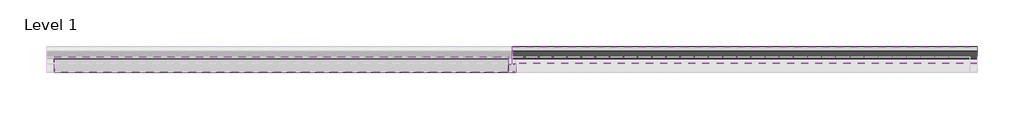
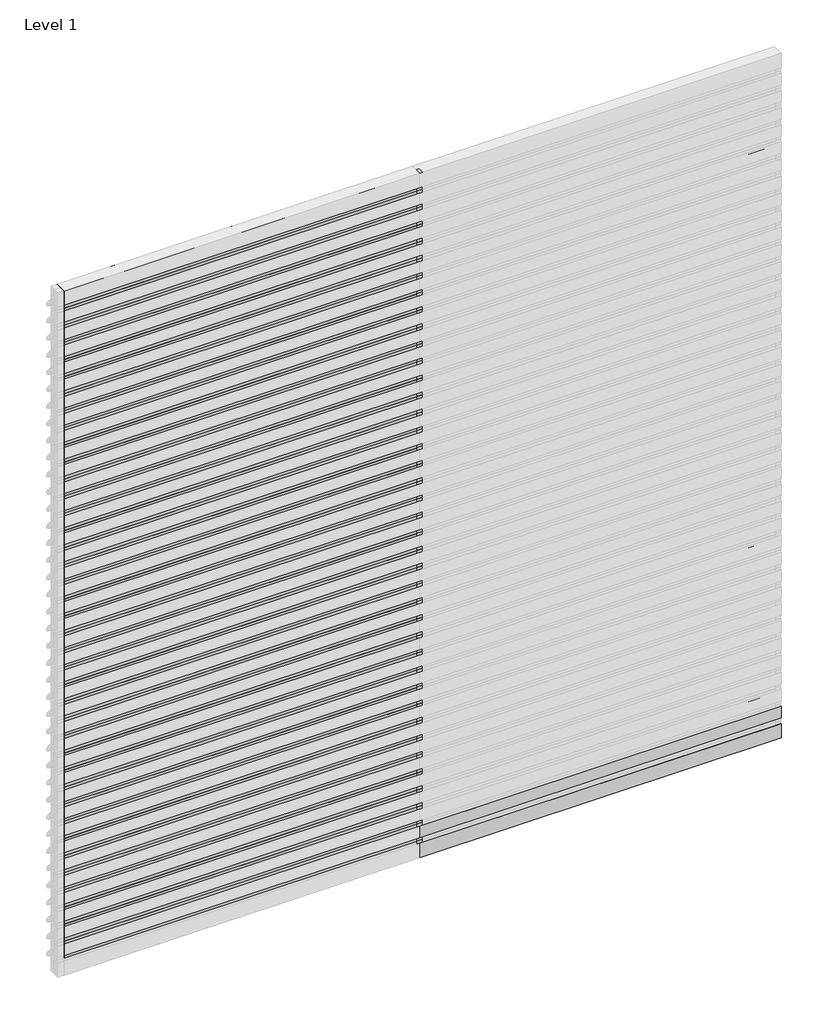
# One storey, part 2 of 3: 79 members, 41 plates.
"""IFC4 building model written with IfcOpenShell, lengths in millimetres."""

from ifc_helpers import new_model, si_unit, origin, place, context, project, spatial, transform, mapped, element, save
from components import rectangular_mullion_37c1fa86, rectangular_mullion_eb4a5411, empty_system_panel_empty_4bef3949, empty_system_panel_empty_2cee0f2e, empty_system_panel_empty_149e9d60

model = new_model("IFC4")

# Units and contexts
model_context = context("Model", 3, world=origin())
ifc_project = project(units=[si_unit("LENGTHUNIT", "METRE", prefix="MILLI")], contexts=[model_context])

# Site, building, storey
site = spatial("IfcSite", under=ifc_project)
building = spatial("IfcBuilding", under=site)
storey = spatial("IfcBuildingStorey", under=building, Name="Level 1", Elevation=0.0)

# Members
placement = place(None, origin())
rectangular_mullion_shape = rectangular_mullion_37c1fa86(model_context)
element("IfcMember", 1, ObjectType="Rectangular Mullion : RSen_21_CWM_blade - 150 ellips - 45°_gen_duco projects", at=placement, inside=storey, context=model_context, shape_type="MappedRepresentation", body=[
    mapped(rectangular_mullion_shape, transform((3000.0, 3000.0, 150.0), x_axis=(0.0, 0.0, 1.0), y_axis=(0.0, 1.0, 0.0), z_axis=(-1.0, 0.0, 0.0))),
])
element("IfcMember", 2, ObjectType="Rectangular Mullion : RSen_21_CWM_blade - 150 ellips - 45°_gen_duco projects", at=placement, inside=storey, context=model_context, shape_type="MappedRepresentation", body=[
    mapped(rectangular_mullion_shape, transform((3000.0, 3000.0, 300.0), x_axis=(0.0, 0.0, 1.0), y_axis=(0.0, 1.0, 0.0), z_axis=(-1.0, 0.0, 0.0))),
])
element("IfcMember", 3, ObjectType="Rectangular Mullion : RSen_21_CWM_blade - 150 ellips - 45°_gen_duco projects", at=placement, inside=storey, context=model_context, shape_type="MappedRepresentation", body=[
    mapped(rectangular_mullion_shape, transform((3000.0, 3000.0, 450.0), x_axis=(0.0, 0.0, 1.0), y_axis=(0.0, 1.0, 0.0), z_axis=(-1.0, 0.0, 0.0))),
])
element("IfcMember", 4, ObjectType="Rectangular Mullion : RSen_21_CWM_blade - 150 ellips - 45°_gen_duco projects", at=placement, inside=storey, context=model_context, shape_type="MappedRepresentation", body=[
    mapped(rectangular_mullion_shape, transform((3000.0, 3000.0, 600.0), x_axis=(0.0, 0.0, 1.0), y_axis=(0.0, 1.0, 0.0), z_axis=(-1.0, 0.0, 0.0))),
])
element("IfcMember", 5, ObjectType="Rectangular Mullion : RSen_21_CWM_blade - 150 ellips - 45°_gen_duco projects", at=placement, inside=storey, context=model_context, shape_type="MappedRepresentation", body=[
    mapped(rectangular_mullion_shape, transform((3000.0, 3000.0, 750.0), x_axis=(0.0, 0.0, 1.0), y_axis=(0.0, 1.0, 0.0), z_axis=(-1.0, 0.0, 0.0))),
])
element("IfcMember", 6, ObjectType="Rectangular Mullion : RSen_21_CWM_blade - 150 ellips - 45°_gen_duco projects", at=placement, inside=storey, context=model_context, shape_type="MappedRepresentation", body=[
    mapped(rectangular_mullion_shape, transform((3000.0, 3000.0, 900.0), x_axis=(0.0, 0.0, 1.0), y_axis=(0.0, 1.0, 0.0), z_axis=(-1.0, 0.0, 0.0))),
])
element("IfcMember", 7, ObjectType="Rectangular Mullion : RSen_21_CWM_blade - 150 ellips - 45°_gen_duco projects", at=placement, inside=storey, context=model_context, shape_type="MappedRepresentation", body=[
    mapped(rectangular_mullion_shape, transform((3000.0, 3000.0, 1050.0), x_axis=(0.0, 0.0, 1.0), y_axis=(0.0, 1.0, 0.0), z_axis=(-1.0, 0.0, 0.0))),
])
element("IfcMember", 8, ObjectType="Rectangular Mullion : RSen_21_CWM_blade - 150 ellips - 45°_gen_duco projects", at=placement, inside=storey, context=model_context, shape_type="MappedRepresentation", body=[
    mapped(rectangular_mullion_shape, transform((3000.0, 3000.0, 1200.0), x_axis=(0.0, 0.0, 1.0), y_axis=(0.0, 1.0, 0.0), z_axis=(-1.0, 0.0, 0.0))),
])
element("IfcMember", 9, ObjectType="Rectangular Mullion : RSen_21_CWM_blade - 150 ellips - 45°_gen_duco projects", at=placement, inside=storey, context=model_context, shape_type="MappedRepresentation", body=[
    mapped(rectangular_mullion_shape, transform((3000.0, 3000.0, 1350.0), x_axis=(0.0, 0.0, 1.0), y_axis=(0.0, 1.0, 0.0), z_axis=(-1.0, 0.0, 0.0))),
])
element("IfcMember", 10, ObjectType="Rectangular Mullion : RSen_21_CWM_blade - 150 ellips - 45°_gen_duco projects", at=placement, inside=storey, context=model_context, shape_type="MappedRepresentation", body=[
    mapped(rectangular_mullion_shape, transform((3000.0, 3000.0, 1500.0), x_axis=(0.0, 0.0, 1.0), y_axis=(0.0, 1.0, 0.0), z_axis=(-1.0, 0.0, 0.0))),
])
element("IfcMember", 11, ObjectType="Rectangular Mullion : RSen_21_CWM_blade - 150 ellips - 45°_gen_duco projects", at=placement, inside=storey, context=model_context, shape_type="MappedRepresentation", body=[
    mapped(rectangular_mullion_shape, transform((3000.0, 3000.0, 1650.0), x_axis=(0.0, 0.0, 1.0), y_axis=(0.0, 1.0, 0.0), z_axis=(-1.0, 0.0, 0.0))),
])
element("IfcMember", 12, ObjectType="Rectangular Mullion : RSen_21_CWM_blade - 150 ellips - 45°_gen_duco projects", at=placement, inside=storey, context=model_context, shape_type="MappedRepresentation", body=[
    mapped(rectangular_mullion_shape, transform((3000.0, 3000.0, 1800.0), x_axis=(0.0, 0.0, 1.0), y_axis=(0.0, 1.0, 0.0), z_axis=(-1.0, 0.0, 0.0))),
])
element("IfcMember", 13, ObjectType="Rectangular Mullion : RSen_21_CWM_blade - 150 ellips - 45°_gen_duco projects", at=placement, inside=storey, context=model_context, shape_type="MappedRepresentation", body=[
    mapped(rectangular_mullion_shape, transform((3000.0, 3000.0, 1950.0), x_axis=(0.0, 0.0, 1.0), y_axis=(0.0, 1.0, 0.0), z_axis=(-1.0, 0.0, 0.0))),
])
element("IfcMember", 14, ObjectType="Rectangular Mullion : RSen_21_CWM_blade - 150 ellips - 45°_gen_duco projects", at=placement, inside=storey, context=model_context, shape_type="MappedRepresentation", body=[
    mapped(rectangular_mullion_shape, transform((3000.0, 3000.0, 2100.0), x_axis=(0.0, 0.0, 1.0), y_axis=(0.0, 1.0, 0.0), z_axis=(-1.0, 0.0, 0.0))),
])
element("IfcMember", 15, ObjectType="Rectangular Mullion : RSen_21_CWM_blade - 150 ellips - 45°_gen_duco projects", at=placement, inside=storey, context=model_context, shape_type="MappedRepresentation", body=[
    mapped(rectangular_mullion_shape, transform((3000.0, 3000.0, 2250.0), x_axis=(0.0, 0.0, 1.0), y_axis=(0.0, 1.0, 0.0), z_axis=(-1.0, 0.0, 0.0))),
])
element("IfcMember", 16, ObjectType="Rectangular Mullion : RSen_21_CWM_blade - 150 ellips - 45°_gen_duco projects", at=placement, inside=storey, context=model_context, shape_type="MappedRepresentation", body=[
    mapped(rectangular_mullion_shape, transform((3000.0, 3000.0, 2400.0), x_axis=(0.0, 0.0, 1.0), y_axis=(0.0, 1.0, 0.0), z_axis=(-1.0, 0.0, 0.0))),
])
element("IfcMember", 17, ObjectType="Rectangular Mullion : RSen_21_CWM_blade - 150 ellips - 45°_gen_duco projects", at=placement, inside=storey, context=model_context, shape_type="MappedRepresentation", body=[
    mapped(rectangular_mullion_shape, transform((3000.0, 3000.0, 2550.0), x_axis=(0.0, 0.0, 1.0), y_axis=(0.0, 1.0, 0.0), z_axis=(-1.0, 0.0, 0.0))),
])
element("IfcMember", 18, ObjectType="Rectangular Mullion : RSen_21_CWM_blade - 150 ellips - 45°_gen_duco projects", at=placement, inside=storey, context=model_context, shape_type="MappedRepresentation", body=[
    mapped(rectangular_mullion_shape, transform((3000.0, 3000.0, 2700.0), x_axis=(0.0, 0.0, 1.0), y_axis=(0.0, 1.0, 0.0), z_axis=(-1.0, 0.0, 0.0))),
])
element("IfcMember", 19, ObjectType="Rectangular Mullion : RSen_21_CWM_blade - 150 ellips - 45°_gen_duco projects", at=placement, inside=storey, context=model_context, shape_type="MappedRepresentation", body=[
    mapped(rectangular_mullion_shape, transform((3000.0, 3000.0, 2850.0), x_axis=(0.0, 0.0, 1.0), y_axis=(0.0, 1.0, 0.0), z_axis=(-1.0, 0.0, 0.0))),
])
element("IfcMember", 20, ObjectType="Rectangular Mullion : RSen_21_CWM_blade - 150 ellips - 45°_gen_duco projects", at=placement, inside=storey, context=model_context, shape_type="MappedRepresentation", body=[
    mapped(rectangular_mullion_shape, transform((3000.0, 3000.0, 3000.0), x_axis=(0.0, 0.0, 1.0), y_axis=(0.0, 1.0, 0.0), z_axis=(-1.0, 0.0, 0.0))),
])
element("IfcMember", 21, ObjectType="Rectangular Mullion : RSen_21_CWM_blade - 150 ellips - 45°_gen_duco projects", at=placement, inside=storey, context=model_context, shape_type="MappedRepresentation", body=[
    mapped(rectangular_mullion_shape, transform((3000.0, 3000.0, 3150.0), x_axis=(0.0, 0.0, 1.0), y_axis=(0.0, 1.0, 0.0), z_axis=(-1.0, 0.0, 0.0))),
])
element("IfcMember", 22, ObjectType="Rectangular Mullion : RSen_21_CWM_blade - 150 ellips - 45°_gen_duco projects", at=placement, inside=storey, context=model_context, shape_type="MappedRepresentation", body=[
    mapped(rectangular_mullion_shape, transform((3000.0, 3000.0, 3300.0), x_axis=(0.0, 0.0, 1.0), y_axis=(0.0, 1.0, 0.0), z_axis=(-1.0, 0.0, 0.0))),
])
element("IfcMember", 23, ObjectType="Rectangular Mullion : RSen_21_CWM_blade - 150 ellips - 45°_gen_duco projects", at=placement, inside=storey, context=model_context, shape_type="MappedRepresentation", body=[
    mapped(rectangular_mullion_shape, transform((3000.0, 3000.0, 3450.0), x_axis=(0.0, 0.0, 1.0), y_axis=(0.0, 1.0, 0.0), z_axis=(-1.0, 0.0, 0.0))),
])
element("IfcMember", 24, ObjectType="Rectangular Mullion : RSen_21_CWM_blade - 150 ellips - 45°_gen_duco projects", at=placement, inside=storey, context=model_context, shape_type="MappedRepresentation", body=[
    mapped(rectangular_mullion_shape, transform((3000.0, 3000.0, 3600.0), x_axis=(0.0, 0.0, 1.0), y_axis=(0.0, 1.0, 0.0), z_axis=(-1.0, 0.0, 0.0))),
])
element("IfcMember", 25, ObjectType="Rectangular Mullion : RSen_21_CWM_blade - 150 ellips - 45°_gen_duco projects", at=placement, inside=storey, context=model_context, shape_type="MappedRepresentation", body=[
    mapped(rectangular_mullion_shape, transform((3000.0, 3000.0, 3750.0), x_axis=(0.0, 0.0, 1.0), y_axis=(0.0, 1.0, 0.0), z_axis=(-1.0, 0.0, 0.0))),
])
element("IfcMember", 26, ObjectType="Rectangular Mullion : RSen_21_CWM_blade - 150 ellips - 45°_gen_duco projects", at=placement, inside=storey, context=model_context, shape_type="MappedRepresentation", body=[
    mapped(rectangular_mullion_shape, transform((3000.0, 3000.0, 3900.0), x_axis=(0.0, 0.0, 1.0), y_axis=(0.0, 1.0, 0.0), z_axis=(-1.0, 0.0, 0.0))),
])
element("IfcMember", 27, ObjectType="Rectangular Mullion : RSen_21_CWM_blade - 150 ellips - 45°_gen_duco projects", at=placement, inside=storey, context=model_context, shape_type="MappedRepresentation", body=[
    mapped(rectangular_mullion_shape, transform((3000.0, 3000.0, 4050.0), x_axis=(0.0, 0.0, 1.0), y_axis=(0.0, 1.0, 0.0), z_axis=(-1.0, 0.0, 0.0))),
])
element("IfcMember", 28, ObjectType="Rectangular Mullion : RSen_21_CWM_blade - 150 ellips - 45°_gen_duco projects", at=placement, inside=storey, context=model_context, shape_type="MappedRepresentation", body=[
    mapped(rectangular_mullion_shape, transform((3000.0, 3000.0, 4200.0), x_axis=(0.0, 0.0, 1.0), y_axis=(0.0, 1.0, 0.0), z_axis=(-1.0, 0.0, 0.0))),
])
element("IfcMember", 29, ObjectType="Rectangular Mullion : RSen_21_CWM_blade - 150 ellips - 45°_gen_duco projects", at=placement, inside=storey, context=model_context, shape_type="MappedRepresentation", body=[
    mapped(rectangular_mullion_shape, transform((3000.0, 3000.0, 4350.0), x_axis=(0.0, 0.0, 1.0), y_axis=(0.0, 1.0, 0.0), z_axis=(-1.0, 0.0, 0.0))),
])
element("IfcMember", 30, ObjectType="Rectangular Mullion : RSen_21_CWM_blade - 150 ellips - 45°_gen_duco projects", at=placement, inside=storey, context=model_context, shape_type="MappedRepresentation", body=[
    mapped(rectangular_mullion_shape, transform((3000.0, 3000.0, 4500.0), x_axis=(0.0, 0.0, 1.0), y_axis=(0.0, 1.0, 0.0), z_axis=(-1.0, 0.0, 0.0))),
])
element("IfcMember", 31, ObjectType="Rectangular Mullion : RSen_21_CWM_blade - 150 ellips - 45°_gen_duco projects", at=placement, inside=storey, context=model_context, shape_type="MappedRepresentation", body=[
    mapped(rectangular_mullion_shape, transform((3000.0, 3000.0, 4650.0), x_axis=(0.0, 0.0, 1.0), y_axis=(0.0, 1.0, 0.0), z_axis=(-1.0, 0.0, 0.0))),
])
element("IfcMember", 32, ObjectType="Rectangular Mullion : RSen_21_CWM_blade - 150 ellips - 45°_gen_duco projects", at=placement, inside=storey, context=model_context, shape_type="MappedRepresentation", body=[
    mapped(rectangular_mullion_shape, transform((3000.0, 3000.0, 4800.0), x_axis=(0.0, 0.0, 1.0), y_axis=(0.0, 1.0, 0.0), z_axis=(-1.0, 0.0, 0.0))),
])
element("IfcMember", 33, ObjectType="Rectangular Mullion : RSen_21_CWM_blade - 150 ellips - 45°_gen_duco projects", at=placement, inside=storey, context=model_context, shape_type="MappedRepresentation", body=[
    mapped(rectangular_mullion_shape, transform((3000.0, 3000.0, 4950.0), x_axis=(0.0, 0.0, 1.0), y_axis=(0.0, 1.0, 0.0), z_axis=(-1.0, 0.0, 0.0))),
])
element("IfcMember", 34, ObjectType="Rectangular Mullion : RSen_21_CWM_blade - 150 ellips - 45°_gen_duco projects", at=placement, inside=storey, context=model_context, shape_type="MappedRepresentation", body=[
    mapped(rectangular_mullion_shape, transform((3000.0, 3000.0, 5100.0), x_axis=(0.0, 0.0, 1.0), y_axis=(0.0, 1.0, 0.0), z_axis=(-1.0, 0.0, 0.0))),
])
element("IfcMember", 35, ObjectType="Rectangular Mullion : RSen_21_CWM_blade - 150 ellips - 45°_gen_duco projects", at=placement, inside=storey, context=model_context, shape_type="MappedRepresentation", body=[
    mapped(rectangular_mullion_shape, transform((3000.0, 3000.0, 5250.0), x_axis=(0.0, 0.0, 1.0), y_axis=(0.0, 1.0, 0.0), z_axis=(-1.0, 0.0, 0.0))),
])
element("IfcMember", 36, ObjectType="Rectangular Mullion : RSen_21_CWM_blade - 150 ellips - 45°_gen_duco projects", at=placement, inside=storey, context=model_context, shape_type="MappedRepresentation", body=[
    mapped(rectangular_mullion_shape, transform((3000.0, 3000.0, 5400.0), x_axis=(0.0, 0.0, 1.0), y_axis=(0.0, 1.0, 0.0), z_axis=(-1.0, 0.0, 0.0))),
])
element("IfcMember", 37, ObjectType="Rectangular Mullion : RSen_21_CWM_blade - 150 ellips - 45°_gen_duco projects", at=placement, inside=storey, context=model_context, shape_type="MappedRepresentation", body=[
    mapped(rectangular_mullion_shape, transform((3000.0, 3000.0, 5550.0), x_axis=(0.0, 0.0, 1.0), y_axis=(0.0, 1.0, 0.0), z_axis=(-1.0, 0.0, 0.0))),
])
element("IfcMember", 38, ObjectType="Rectangular Mullion : RSen_21_CWM_blade - 150 ellips - 45°_gen_duco projects", at=placement, inside=storey, context=model_context, shape_type="MappedRepresentation", body=[
    mapped(rectangular_mullion_shape, transform((3000.0, 3000.0, 5700.0), x_axis=(0.0, 0.0, 1.0), y_axis=(0.0, 1.0, 0.0), z_axis=(-1.0, 0.0, 0.0))),
])
element("IfcMember", 39, ObjectType="Rectangular Mullion : RSen_21_CWM_blade - 150 ellips - 45°_gen_duco projects", at=placement, inside=storey, context=model_context, shape_type="MappedRepresentation", body=[
    mapped(rectangular_mullion_shape, transform((3000.0, 3000.0, 5850.0), x_axis=(0.0, 0.0, 1.0), y_axis=(0.0, 1.0, 0.0), z_axis=(-1.0, 0.0, 0.0))),
])
rectangular_mullion_2_shape = rectangular_mullion_eb4a5411(model_context)
element("IfcMember", 40, ObjectType="Rectangular Mullion : RSen_21_CWM_support profile 50x50_gen_duco projects", at=placement, inside=storey, context=model_context, shape_type="MappedRepresentation", body=[
    mapped(rectangular_mullion_2_shape, transform((3000.0, 3000.0, 0.0), x_axis=(-1.0, 0.0, 0.0), y_axis=(0.0, 1.0, 0.0), z_axis=(0.0, 0.0, -1.0))),
])
element("IfcMember", 41, ObjectType="Rectangular Mullion : RSen_21_CWM_support profile 50x50_gen_duco projects", at=placement, inside=storey, context=model_context, shape_type="MappedRepresentation", body=[
    mapped(rectangular_mullion_2_shape, transform((3000.0, 3000.0, 150.0), x_axis=(-1.0, 0.0, 0.0), y_axis=(0.0, 1.0, 0.0), z_axis=(0.0, 0.0, -1.0))),
])
element("IfcMember", 42, ObjectType="Rectangular Mullion : RSen_21_CWM_support profile 50x50_gen_duco projects", at=placement, inside=storey, context=model_context, shape_type="MappedRepresentation", body=[
    mapped(rectangular_mullion_2_shape, transform((3000.0, 3000.0, 300.0), x_axis=(-1.0, 0.0, 0.0), y_axis=(0.0, 1.0, 0.0), z_axis=(0.0, 0.0, -1.0))),
])
element("IfcMember", 43, ObjectType="Rectangular Mullion : RSen_21_CWM_support profile 50x50_gen_duco projects", at=placement, inside=storey, context=model_context, shape_type="MappedRepresentation", body=[
    mapped(rectangular_mullion_2_shape, transform((3000.0, 3000.0, 450.0), x_axis=(-1.0, 0.0, 0.0), y_axis=(0.0, 1.0, 0.0), z_axis=(0.0, 0.0, -1.0))),
])
element("IfcMember", 44, ObjectType="Rectangular Mullion : RSen_21_CWM_support profile 50x50_gen_duco projects", at=placement, inside=storey, context=model_context, shape_type="MappedRepresentation", body=[
    mapped(rectangular_mullion_2_shape, transform((3000.0, 3000.0, 600.0), x_axis=(-1.0, 0.0, 0.0), y_axis=(0.0, 1.0, 0.0), z_axis=(0.0, 0.0, -1.0))),
])
element("IfcMember", 45, ObjectType="Rectangular Mullion : RSen_21_CWM_support profile 50x50_gen_duco projects", at=placement, inside=storey, context=model_context, shape_type="MappedRepresentation", body=[
    mapped(rectangular_mullion_2_shape, transform((3000.0, 3000.0, 750.0), x_axis=(-1.0, 0.0, 0.0), y_axis=(0.0, 1.0, 0.0), z_axis=(0.0, 0.0, -1.0))),
])
element("IfcMember", 46, ObjectType="Rectangular Mullion : RSen_21_CWM_support profile 50x50_gen_duco projects", at=placement, inside=storey, context=model_context, shape_type="MappedRepresentation", body=[
    mapped(rectangular_mullion_2_shape, transform((3000.0, 3000.0, 900.0), x_axis=(-1.0, 0.0, 0.0), y_axis=(0.0, 1.0, 0.0), z_axis=(0.0, 0.0, -1.0))),
])
element("IfcMember", 47, ObjectType="Rectangular Mullion : RSen_21_CWM_support profile 50x50_gen_duco projects", at=placement, inside=storey, context=model_context, shape_type="MappedRepresentation", body=[
    mapped(rectangular_mullion_2_shape, transform((3000.0, 3000.0, 1050.0), x_axis=(-1.0, 0.0, 0.0), y_axis=(0.0, 1.0, 0.0), z_axis=(0.0, 0.0, -1.0))),
])
element("IfcMember", 48, ObjectType="Rectangular Mullion : RSen_21_CWM_support profile 50x50_gen_duco projects", at=placement, inside=storey, context=model_context, shape_type="MappedRepresentation", body=[
    mapped(rectangular_mullion_2_shape, transform((3000.0, 3000.0, 1200.0), x_axis=(-1.0, 0.0, 0.0), y_axis=(0.0, 1.0, 0.0), z_axis=(0.0, 0.0, -1.0))),
])
element("IfcMember", 49, ObjectType="Rectangular Mullion : RSen_21_CWM_support profile 50x50_gen_duco projects", at=placement, inside=storey, context=model_context, shape_type="MappedRepresentation", body=[
    mapped(rectangular_mullion_2_shape, transform((3000.0, 3000.0, 1350.0), x_axis=(-1.0, 0.0, 0.0), y_axis=(0.0, 1.0, 0.0), z_axis=(0.0, 0.0, -1.0))),
])
element("IfcMember", 50, ObjectType="Rectangular Mullion : RSen_21_CWM_support profile 50x50_gen_duco projects", at=placement, inside=storey, context=model_context, shape_type="MappedRepresentation", body=[
    mapped(rectangular_mullion_2_shape, transform((3000.0, 3000.0, 1500.0), x_axis=(-1.0, 0.0, 0.0), y_axis=(0.0, 1.0, 0.0), z_axis=(0.0, 0.0, -1.0))),
])
element("IfcMember", 51, ObjectType="Rectangular Mullion : RSen_21_CWM_support profile 50x50_gen_duco projects", at=placement, inside=storey, context=model_context, shape_type="MappedRepresentation", body=[
    mapped(rectangular_mullion_2_shape, transform((3000.0, 3000.0, 1650.0), x_axis=(-1.0, 0.0, 0.0), y_axis=(0.0, 1.0, 0.0), z_axis=(0.0, 0.0, -1.0))),
])
element("IfcMember", 52, ObjectType="Rectangular Mullion : RSen_21_CWM_support profile 50x50_gen_duco projects", at=placement, inside=storey, context=model_context, shape_type="MappedRepresentation", body=[
    mapped(rectangular_mullion_2_shape, transform((3000.0, 3000.0, 1800.0), x_axis=(-1.0, 0.0, 0.0), y_axis=(0.0, 1.0, 0.0), z_axis=(0.0, 0.0, -1.0))),
])
element("IfcMember", 53, ObjectType="Rectangular Mullion : RSen_21_CWM_support profile 50x50_gen_duco projects", at=placement, inside=storey, context=model_context, shape_type="MappedRepresentation", body=[
    mapped(rectangular_mullion_2_shape, transform((3000.0, 3000.0, 1950.0), x_axis=(-1.0, 0.0, 0.0), y_axis=(0.0, 1.0, 0.0), z_axis=(0.0, 0.0, -1.0))),
])
element("IfcMember", 54, ObjectType="Rectangular Mullion : RSen_21_CWM_support profile 50x50_gen_duco projects", at=placement, inside=storey, context=model_context, shape_type="MappedRepresentation", body=[
    mapped(rectangular_mullion_2_shape, transform((3000.0, 3000.0, 2100.0), x_axis=(-1.0, 0.0, 0.0), y_axis=(0.0, 1.0, 0.0), z_axis=(0.0, 0.0, -1.0))),
])
element("IfcMember", 55, ObjectType="Rectangular Mullion : RSen_21_CWM_support profile 50x50_gen_duco projects", at=placement, inside=storey, context=model_context, shape_type="MappedRepresentation", body=[
    mapped(rectangular_mullion_2_shape, transform((3000.0, 3000.0, 2250.0), x_axis=(-1.0, 0.0, 0.0), y_axis=(0.0, 1.0, 0.0), z_axis=(0.0, 0.0, -1.0))),
])
element("IfcMember", 56, ObjectType="Rectangular Mullion : RSen_21_CWM_support profile 50x50_gen_duco projects", at=placement, inside=storey, context=model_context, shape_type="MappedRepresentation", body=[
    mapped(rectangular_mullion_2_shape, transform((3000.0, 3000.0, 2400.0), x_axis=(-1.0, 0.0, 0.0), y_axis=(0.0, 1.0, 0.0), z_axis=(0.0, 0.0, -1.0))),
])
element("IfcMember", 57, ObjectType="Rectangular Mullion : RSen_21_CWM_support profile 50x50_gen_duco projects", at=placement, inside=storey, context=model_context, shape_type="MappedRepresentation", body=[
    mapped(rectangular_mullion_2_shape, transform((3000.0, 3000.0, 2550.0), x_axis=(-1.0, 0.0, 0.0), y_axis=(0.0, 1.0, 0.0), z_axis=(0.0, 0.0, -1.0))),
])
element("IfcMember", 58, ObjectType="Rectangular Mullion : RSen_21_CWM_support profile 50x50_gen_duco projects", at=placement, inside=storey, context=model_context, shape_type="MappedRepresentation", body=[
    mapped(rectangular_mullion_2_shape, transform((3000.0, 3000.0, 2700.0), x_axis=(-1.0, 0.0, 0.0), y_axis=(0.0, 1.0, 0.0), z_axis=(0.0, 0.0, -1.0))),
])
element("IfcMember", 59, ObjectType="Rectangular Mullion : RSen_21_CWM_support profile 50x50_gen_duco projects", at=placement, inside=storey, context=model_context, shape_type="MappedRepresentation", body=[
    mapped(rectangular_mullion_2_shape, transform((3000.0, 3000.0, 2850.0), x_axis=(-1.0, 0.0, 0.0), y_axis=(0.0, 1.0, 0.0), z_axis=(0.0, 0.0, -1.0))),
])
element("IfcMember", 60, ObjectType="Rectangular Mullion : RSen_21_CWM_support profile 50x50_gen_duco projects", at=placement, inside=storey, context=model_context, shape_type="MappedRepresentation", body=[
    mapped(rectangular_mullion_2_shape, transform((3000.0, 3000.0, 3000.0), x_axis=(-1.0, 0.0, 0.0), y_axis=(0.0, 1.0, 0.0), z_axis=(0.0, 0.0, -1.0))),
])
element("IfcMember", 61, ObjectType="Rectangular Mullion : RSen_21_CWM_support profile 50x50_gen_duco projects", at=placement, inside=storey, context=model_context, shape_type="MappedRepresentation", body=[
    mapped(rectangular_mullion_2_shape, transform((3000.0, 3000.0, 3150.0), x_axis=(-1.0, 0.0, 0.0), y_axis=(0.0, 1.0, 0.0), z_axis=(0.0, 0.0, -1.0))),
])
element("IfcMember", 62, ObjectType="Rectangular Mullion : RSen_21_CWM_support profile 50x50_gen_duco projects", at=placement, inside=storey, context=model_context, shape_type="MappedRepresentation", body=[
    mapped(rectangular_mullion_2_shape, transform((3000.0, 3000.0, 3300.0), x_axis=(-1.0, 0.0, 0.0), y_axis=(0.0, 1.0, 0.0), z_axis=(0.0, 0.0, -1.0))),
])
element("IfcMember", 63, ObjectType="Rectangular Mullion : RSen_21_CWM_support profile 50x50_gen_duco projects", at=placement, inside=storey, context=model_context, shape_type="MappedRepresentation", body=[
    mapped(rectangular_mullion_2_shape, transform((3000.0, 3000.0, 3450.0), x_axis=(-1.0, 0.0, 0.0), y_axis=(0.0, 1.0, 0.0), z_axis=(0.0, 0.0, -1.0))),
])
element("IfcMember", 64, ObjectType="Rectangular Mullion : RSen_21_CWM_support profile 50x50_gen_duco projects", at=placement, inside=storey, context=model_context, shape_type="MappedRepresentation", body=[
    mapped(rectangular_mullion_2_shape, transform((3000.0, 3000.0, 3600.0), x_axis=(-1.0, 0.0, 0.0), y_axis=(0.0, 1.0, 0.0), z_axis=(0.0, 0.0, -1.0))),
])
element("IfcMember", 65, ObjectType="Rectangular Mullion : RSen_21_CWM_support profile 50x50_gen_duco projects", at=placement, inside=storey, context=model_context, shape_type="MappedRepresentation", body=[
    mapped(rectangular_mullion_2_shape, transform((3000.0, 3000.0, 3750.0), x_axis=(-1.0, 0.0, 0.0), y_axis=(0.0, 1.0, 0.0), z_axis=(0.0, 0.0, -1.0))),
])
element("IfcMember", 66, ObjectType="Rectangular Mullion : RSen_21_CWM_support profile 50x50_gen_duco projects", at=placement, inside=storey, context=model_context, shape_type="MappedRepresentation", body=[
    mapped(rectangular_mullion_2_shape, transform((3000.0, 3000.0, 3900.0), x_axis=(-1.0, 0.0, 0.0), y_axis=(0.0, 1.0, 0.0), z_axis=(0.0, 0.0, -1.0))),
])
element("IfcMember", 67, ObjectType="Rectangular Mullion : RSen_21_CWM_support profile 50x50_gen_duco projects", at=placement, inside=storey, context=model_context, shape_type="MappedRepresentation", body=[
    mapped(rectangular_mullion_2_shape, transform((3000.0, 3000.0, 4050.0), x_axis=(-1.0, 0.0, 0.0), y_axis=(0.0, 1.0, 0.0), z_axis=(0.0, 0.0, -1.0))),
])
element("IfcMember", 68, ObjectType="Rectangular Mullion : RSen_21_CWM_support profile 50x50_gen_duco projects", at=placement, inside=storey, context=model_context, shape_type="MappedRepresentation", body=[
    mapped(rectangular_mullion_2_shape, transform((3000.0, 3000.0, 4200.0), x_axis=(-1.0, 0.0, 0.0), y_axis=(0.0, 1.0, 0.0), z_axis=(0.0, 0.0, -1.0))),
])
element("IfcMember", 69, ObjectType="Rectangular Mullion : RSen_21_CWM_support profile 50x50_gen_duco projects", at=placement, inside=storey, context=model_context, shape_type="MappedRepresentation", body=[
    mapped(rectangular_mullion_2_shape, transform((3000.0, 3000.0, 4350.0), x_axis=(-1.0, 0.0, 0.0), y_axis=(0.0, 1.0, 0.0), z_axis=(0.0, 0.0, -1.0))),
])
element("IfcMember", 70, ObjectType="Rectangular Mullion : RSen_21_CWM_support profile 50x50_gen_duco projects", at=placement, inside=storey, context=model_context, shape_type="MappedRepresentation", body=[
    mapped(rectangular_mullion_2_shape, transform((3000.0, 3000.0, 4500.0), x_axis=(-1.0, 0.0, 0.0), y_axis=(0.0, 1.0, 0.0), z_axis=(0.0, 0.0, -1.0))),
])
element("IfcMember", 71, ObjectType="Rectangular Mullion : RSen_21_CWM_support profile 50x50_gen_duco projects", at=placement, inside=storey, context=model_context, shape_type="MappedRepresentation", body=[
    mapped(rectangular_mullion_2_shape, transform((3000.0, 3000.0, 4650.0), x_axis=(-1.0, 0.0, 0.0), y_axis=(0.0, 1.0, 0.0), z_axis=(0.0, 0.0, -1.0))),
])
element("IfcMember", 72, ObjectType="Rectangular Mullion : RSen_21_CWM_support profile 50x50_gen_duco projects", at=placement, inside=storey, context=model_context, shape_type="MappedRepresentation", body=[
    mapped(rectangular_mullion_2_shape, transform((3000.0, 3000.0, 4800.0), x_axis=(-1.0, 0.0, 0.0), y_axis=(0.0, 1.0, 0.0), z_axis=(0.0, 0.0, -1.0))),
])
element("IfcMember", 73, ObjectType="Rectangular Mullion : RSen_21_CWM_support profile 50x50_gen_duco projects", at=placement, inside=storey, context=model_context, shape_type="MappedRepresentation", body=[
    mapped(rectangular_mullion_2_shape, transform((3000.0, 3000.0, 4950.0), x_axis=(-1.0, 0.0, 0.0), y_axis=(0.0, 1.0, 0.0), z_axis=(0.0, 0.0, -1.0))),
])
element("IfcMember", 74, ObjectType="Rectangular Mullion : RSen_21_CWM_support profile 50x50_gen_duco projects", at=placement, inside=storey, context=model_context, shape_type="MappedRepresentation", body=[
    mapped(rectangular_mullion_2_shape, transform((3000.0, 3000.0, 5100.0), x_axis=(-1.0, 0.0, 0.0), y_axis=(0.0, 1.0, 0.0), z_axis=(0.0, 0.0, -1.0))),
])
element("IfcMember", 75, ObjectType="Rectangular Mullion : RSen_21_CWM_support profile 50x50_gen_duco projects", at=placement, inside=storey, context=model_context, shape_type="MappedRepresentation", body=[
    mapped(rectangular_mullion_2_shape, transform((3000.0, 3000.0, 5250.0), x_axis=(-1.0, 0.0, 0.0), y_axis=(0.0, 1.0, 0.0), z_axis=(0.0, 0.0, -1.0))),
])
element("IfcMember", 76, ObjectType="Rectangular Mullion : RSen_21_CWM_support profile 50x50_gen_duco projects", at=placement, inside=storey, context=model_context, shape_type="MappedRepresentation", body=[
    mapped(rectangular_mullion_2_shape, transform((3000.0, 3000.0, 5400.0), x_axis=(-1.0, 0.0, 0.0), y_axis=(0.0, 1.0, 0.0), z_axis=(0.0, 0.0, -1.0))),
])
element("IfcMember", 77, ObjectType="Rectangular Mullion : RSen_21_CWM_support profile 50x50_gen_duco projects", at=placement, inside=storey, context=model_context, shape_type="MappedRepresentation", body=[
    mapped(rectangular_mullion_2_shape, transform((3000.0, 3000.0, 5550.0), x_axis=(-1.0, 0.0, 0.0), y_axis=(0.0, 1.0, 0.0), z_axis=(0.0, 0.0, -1.0))),
])
element("IfcMember", 78, ObjectType="Rectangular Mullion : RSen_21_CWM_support profile 50x50_gen_duco projects", at=placement, inside=storey, context=model_context, shape_type="MappedRepresentation", body=[
    mapped(rectangular_mullion_2_shape, transform((3000.0, 3000.0, 5700.0), x_axis=(-1.0, 0.0, 0.0), y_axis=(0.0, 1.0, 0.0), z_axis=(0.0, 0.0, -1.0))),
])
element("IfcMember", 79, ObjectType="Rectangular Mullion : RSen_21_CWM_support profile 50x50_gen_duco projects", at=placement, inside=storey, context=model_context, shape_type="MappedRepresentation", body=[
    mapped(rectangular_mullion_2_shape, transform((3000.0, 3000.0, 5850.0), x_axis=(-1.0, 0.0, 0.0), y_axis=(0.0, 1.0, 0.0), z_axis=(0.0, 0.0, -1.0))),
])

# Plates
empty_system_panel_empty_shape = empty_system_panel_empty_4bef3949(model_context)
element("IfcPlate", 80, ObjectType="Empty System Panel : Empty", at=placement, inside=storey, context=model_context, shape_type="MappedRepresentation", body=[
    mapped(empty_system_panel_empty_shape, transform((4500.0, 3000.0, 0.0), x_axis=(-1.0, 0.0, 0.0), y_axis=(0.0, -1.0, 0.0), z_axis=(0.0, 0.0, 1.0))),
])
empty_system_panel_empty_2_shape = empty_system_panel_empty_2cee0f2e(model_context)
element("IfcPlate", 81, ObjectType="Empty System Panel : Empty", at=placement, inside=storey, context=model_context, shape_type="MappedRepresentation", body=[
    mapped(empty_system_panel_empty_2_shape, transform((4500.0, 3000.0, 174.7487373), x_axis=(-1.0, 0.0, 0.0), y_axis=(0.0, -1.0, 0.0), z_axis=(0.0, 0.0, 1.0))),
])
empty_system_panel_empty_3_shape = empty_system_panel_empty_149e9d60(model_context)
element("IfcPlate", 82, ObjectType="Empty System Panel : Empty", at=placement, inside=storey, context=model_context, shape_type="MappedRepresentation", body=[
    mapped(empty_system_panel_empty_3_shape, transform((1512.5, 3000.0, 150.0), x_axis=(-1.0, 0.0, 0.0), y_axis=(0.0, -1.0, 0.0), z_axis=(0.0, 0.0, 1.0))),
])
element("IfcPlate", 83, ObjectType="Empty System Panel : Empty", at=placement, inside=storey, context=model_context, shape_type="MappedRepresentation", body=[
    mapped(empty_system_panel_empty_3_shape, transform((1512.5, 3000.0, 300.0), x_axis=(-1.0, 0.0, 0.0), y_axis=(0.0, -1.0, 0.0), z_axis=(0.0, 0.0, 1.0))),
])
element("IfcPlate", 84, ObjectType="Empty System Panel : Empty", at=placement, inside=storey, context=model_context, shape_type="MappedRepresentation", body=[
    mapped(empty_system_panel_empty_3_shape, transform((1512.5, 3000.0, 450.0), x_axis=(-1.0, 0.0, 0.0), y_axis=(0.0, -1.0, 0.0), z_axis=(0.0, 0.0, 1.0))),
])
element("IfcPlate", 85, ObjectType="Empty System Panel : Empty", at=placement, inside=storey, context=model_context, shape_type="MappedRepresentation", body=[
    mapped(empty_system_panel_empty_3_shape, transform((1512.5, 3000.0, 600.0), x_axis=(-1.0, 0.0, 0.0), y_axis=(0.0, -1.0, 0.0), z_axis=(0.0, 0.0, 1.0))),
])
element("IfcPlate", 86, ObjectType="Empty System Panel : Empty", at=placement, inside=storey, context=model_context, shape_type="MappedRepresentation", body=[
    mapped(empty_system_panel_empty_3_shape, transform((1512.5, 3000.0, 750.0), x_axis=(-1.0, 0.0, 0.0), y_axis=(0.0, -1.0, 0.0), z_axis=(0.0, 0.0, 1.0))),
])
element("IfcPlate", 87, ObjectType="Empty System Panel : Empty", at=placement, inside=storey, context=model_context, shape_type="MappedRepresentation", body=[
    mapped(empty_system_panel_empty_3_shape, transform((1512.5, 3000.0, 900.0), x_axis=(-1.0, 0.0, 0.0), y_axis=(0.0, -1.0, 0.0), z_axis=(0.0, 0.0, 1.0))),
])
element("IfcPlate", 88, ObjectType="Empty System Panel : Empty", at=placement, inside=storey, context=model_context, shape_type="MappedRepresentation", body=[
    mapped(empty_system_panel_empty_3_shape, transform((1512.5, 3000.0, 1050.0), x_axis=(-1.0, 0.0, 0.0), y_axis=(0.0, -1.0, 0.0), z_axis=(0.0, 0.0, 1.0))),
])
element("IfcPlate", 89, ObjectType="Empty System Panel : Empty", at=placement, inside=storey, context=model_context, shape_type="MappedRepresentation", body=[
    mapped(empty_system_panel_empty_3_shape, transform((1512.5, 3000.0, 1200.0), x_axis=(-1.0, 0.0, 0.0), y_axis=(0.0, -1.0, 0.0), z_axis=(0.0, 0.0, 1.0))),
])
element("IfcPlate", 90, ObjectType="Empty System Panel : Empty", at=placement, inside=storey, context=model_context, shape_type="MappedRepresentation", body=[
    mapped(empty_system_panel_empty_3_shape, transform((1512.5, 3000.0, 1350.0), x_axis=(-1.0, 0.0, 0.0), y_axis=(0.0, -1.0, 0.0), z_axis=(0.0, 0.0, 1.0))),
])
element("IfcPlate", 91, ObjectType="Empty System Panel : Empty", at=placement, inside=storey, context=model_context, shape_type="MappedRepresentation", body=[
    mapped(empty_system_panel_empty_3_shape, transform((1512.5, 3000.0, 1500.0), x_axis=(-1.0, 0.0, 0.0), y_axis=(0.0, -1.0, 0.0), z_axis=(0.0, 0.0, 1.0))),
])
element("IfcPlate", 92, ObjectType="Empty System Panel : Empty", at=placement, inside=storey, context=model_context, shape_type="MappedRepresentation", body=[
    mapped(empty_system_panel_empty_3_shape, transform((1512.5, 3000.0, 1650.0), x_axis=(-1.0, 0.0, 0.0), y_axis=(0.0, -1.0, 0.0), z_axis=(0.0, 0.0, 1.0))),
])
element("IfcPlate", 93, ObjectType="Empty System Panel : Empty", at=placement, inside=storey, context=model_context, shape_type="MappedRepresentation", body=[
    mapped(empty_system_panel_empty_3_shape, transform((1512.5, 3000.0, 1800.0), x_axis=(-1.0, 0.0, 0.0), y_axis=(0.0, -1.0, 0.0), z_axis=(0.0, 0.0, 1.0))),
])
element("IfcPlate", 94, ObjectType="Empty System Panel : Empty", at=placement, inside=storey, context=model_context, shape_type="MappedRepresentation", body=[
    mapped(empty_system_panel_empty_3_shape, transform((1512.5, 3000.0, 1950.0), x_axis=(-1.0, 0.0, 0.0), y_axis=(0.0, -1.0, 0.0), z_axis=(0.0, 0.0, 1.0))),
])
element("IfcPlate", 95, ObjectType="Empty System Panel : Empty", at=placement, inside=storey, context=model_context, shape_type="MappedRepresentation", body=[
    mapped(empty_system_panel_empty_3_shape, transform((1512.5, 3000.0, 2100.0), x_axis=(-1.0, 0.0, 0.0), y_axis=(0.0, -1.0, 0.0), z_axis=(0.0, 0.0, 1.0))),
])
element("IfcPlate", 96, ObjectType="Empty System Panel : Empty", at=placement, inside=storey, context=model_context, shape_type="MappedRepresentation", body=[
    mapped(empty_system_panel_empty_3_shape, transform((1512.5, 3000.0, 2250.0), x_axis=(-1.0, 0.0, 0.0), y_axis=(0.0, -1.0, 0.0), z_axis=(0.0, 0.0, 1.0))),
])
element("IfcPlate", 97, ObjectType="Empty System Panel : Empty", at=placement, inside=storey, context=model_context, shape_type="MappedRepresentation", body=[
    mapped(empty_system_panel_empty_3_shape, transform((1512.5, 3000.0, 2400.0), x_axis=(-1.0, 0.0, 0.0), y_axis=(0.0, -1.0, 0.0), z_axis=(0.0, 0.0, 1.0))),
])
element("IfcPlate", 98, ObjectType="Empty System Panel : Empty", at=placement, inside=storey, context=model_context, shape_type="MappedRepresentation", body=[
    mapped(empty_system_panel_empty_3_shape, transform((1512.5, 3000.0, 2550.0), x_axis=(-1.0, 0.0, 0.0), y_axis=(0.0, -1.0, 0.0), z_axis=(0.0, 0.0, 1.0))),
])
element("IfcPlate", 99, ObjectType="Empty System Panel : Empty", at=placement, inside=storey, context=model_context, shape_type="MappedRepresentation", body=[
    mapped(empty_system_panel_empty_3_shape, transform((1512.5, 3000.0, 2700.0), x_axis=(-1.0, 0.0, 0.0), y_axis=(0.0, -1.0, 0.0), z_axis=(0.0, 0.0, 1.0))),
])
element("IfcPlate", 100, ObjectType="Empty System Panel : Empty", at=placement, inside=storey, context=model_context, shape_type="MappedRepresentation", body=[
    mapped(empty_system_panel_empty_3_shape, transform((1512.5, 3000.0, 2850.0), x_axis=(-1.0, 0.0, 0.0), y_axis=(0.0, -1.0, 0.0), z_axis=(0.0, 0.0, 1.0))),
])
element("IfcPlate", 101, ObjectType="Empty System Panel : Empty", at=placement, inside=storey, context=model_context, shape_type="MappedRepresentation", body=[
    mapped(empty_system_panel_empty_3_shape, transform((1512.5, 3000.0, 3000.0), x_axis=(-1.0, 0.0, 0.0), y_axis=(0.0, -1.0, 0.0), z_axis=(0.0, 0.0, 1.0))),
])
element("IfcPlate", 102, ObjectType="Empty System Panel : Empty", at=placement, inside=storey, context=model_context, shape_type="MappedRepresentation", body=[
    mapped(empty_system_panel_empty_3_shape, transform((1512.5, 3000.0, 3150.0), x_axis=(-1.0, 0.0, 0.0), y_axis=(0.0, -1.0, 0.0), z_axis=(0.0, 0.0, 1.0))),
])
element("IfcPlate", 103, ObjectType="Empty System Panel : Empty", at=placement, inside=storey, context=model_context, shape_type="MappedRepresentation", body=[
    mapped(empty_system_panel_empty_3_shape, transform((1512.5, 3000.0, 3300.0), x_axis=(-1.0, 0.0, 0.0), y_axis=(0.0, -1.0, 0.0), z_axis=(0.0, 0.0, 1.0))),
])
element("IfcPlate", 104, ObjectType="Empty System Panel : Empty", at=placement, inside=storey, context=model_context, shape_type="MappedRepresentation", body=[
    mapped(empty_system_panel_empty_3_shape, transform((1512.5, 3000.0, 3450.0), x_axis=(-1.0, 0.0, 0.0), y_axis=(0.0, -1.0, 0.0), z_axis=(0.0, 0.0, 1.0))),
])
element("IfcPlate", 105, ObjectType="Empty System Panel : Empty", at=placement, inside=storey, context=model_context, shape_type="MappedRepresentation", body=[
    mapped(empty_system_panel_empty_3_shape, transform((1512.5, 3000.0, 3600.0), x_axis=(-1.0, 0.0, 0.0), y_axis=(0.0, -1.0, 0.0), z_axis=(0.0, 0.0, 1.0))),
])
element("IfcPlate", 106, ObjectType="Empty System Panel : Empty", at=placement, inside=storey, context=model_context, shape_type="MappedRepresentation", body=[
    mapped(empty_system_panel_empty_3_shape, transform((1512.5, 3000.0, 3750.0), x_axis=(-1.0, 0.0, 0.0), y_axis=(0.0, -1.0, 0.0), z_axis=(0.0, 0.0, 1.0))),
])
element("IfcPlate", 107, ObjectType="Empty System Panel : Empty", at=placement, inside=storey, context=model_context, shape_type="MappedRepresentation", body=[
    mapped(empty_system_panel_empty_3_shape, transform((1512.5, 3000.0, 3900.0), x_axis=(-1.0, 0.0, 0.0), y_axis=(0.0, -1.0, 0.0), z_axis=(0.0, 0.0, 1.0))),
])
element("IfcPlate", 108, ObjectType="Empty System Panel : Empty", at=placement, inside=storey, context=model_context, shape_type="MappedRepresentation", body=[
    mapped(empty_system_panel_empty_3_shape, transform((1512.5, 3000.0, 4050.0), x_axis=(-1.0, 0.0, 0.0), y_axis=(0.0, -1.0, 0.0), z_axis=(0.0, 0.0, 1.0))),
])
element("IfcPlate", 109, ObjectType="Empty System Panel : Empty", at=placement, inside=storey, context=model_context, shape_type="MappedRepresentation", body=[
    mapped(empty_system_panel_empty_3_shape, transform((1512.5, 3000.0, 4200.0), x_axis=(-1.0, 0.0, 0.0), y_axis=(0.0, -1.0, 0.0), z_axis=(0.0, 0.0, 1.0))),
])
element("IfcPlate", 110, ObjectType="Empty System Panel : Empty", at=placement, inside=storey, context=model_context, shape_type="MappedRepresentation", body=[
    mapped(empty_system_panel_empty_3_shape, transform((1512.5, 3000.0, 4350.0), x_axis=(-1.0, 0.0, 0.0), y_axis=(0.0, -1.0, 0.0), z_axis=(0.0, 0.0, 1.0))),
])
element("IfcPlate", 111, ObjectType="Empty System Panel : Empty", at=placement, inside=storey, context=model_context, shape_type="MappedRepresentation", body=[
    mapped(empty_system_panel_empty_3_shape, transform((1512.5, 3000.0, 4500.0), x_axis=(-1.0, 0.0, 0.0), y_axis=(0.0, -1.0, 0.0), z_axis=(0.0, 0.0, 1.0))),
])
element("IfcPlate", 112, ObjectType="Empty System Panel : Empty", at=placement, inside=storey, context=model_context, shape_type="MappedRepresentation", body=[
    mapped(empty_system_panel_empty_3_shape, transform((1512.5, 3000.0, 4650.0), x_axis=(-1.0, 0.0, 0.0), y_axis=(0.0, -1.0, 0.0), z_axis=(0.0, 0.0, 1.0))),
])
element("IfcPlate", 113, ObjectType="Empty System Panel : Empty", at=placement, inside=storey, context=model_context, shape_type="MappedRepresentation", body=[
    mapped(empty_system_panel_empty_3_shape, transform((1512.5, 3000.0, 4800.0), x_axis=(-1.0, 0.0, 0.0), y_axis=(0.0, -1.0, 0.0), z_axis=(0.0, 0.0, 1.0))),
])
element("IfcPlate", 114, ObjectType="Empty System Panel : Empty", at=placement, inside=storey, context=model_context, shape_type="MappedRepresentation", body=[
    mapped(empty_system_panel_empty_3_shape, transform((1512.5, 3000.0, 4950.0), x_axis=(-1.0, 0.0, 0.0), y_axis=(0.0, -1.0, 0.0), z_axis=(0.0, 0.0, 1.0))),
])
element("IfcPlate", 115, ObjectType="Empty System Panel : Empty", at=placement, inside=storey, context=model_context, shape_type="MappedRepresentation", body=[
    mapped(empty_system_panel_empty_3_shape, transform((1512.5, 3000.0, 5100.0), x_axis=(-1.0, 0.0, 0.0), y_axis=(0.0, -1.0, 0.0), z_axis=(0.0, 0.0, 1.0))),
])
element("IfcPlate", 116, ObjectType="Empty System Panel : Empty", at=placement, inside=storey, context=model_context, shape_type="MappedRepresentation", body=[
    mapped(empty_system_panel_empty_3_shape, transform((1512.5, 3000.0, 5250.0), x_axis=(-1.0, 0.0, 0.0), y_axis=(0.0, -1.0, 0.0), z_axis=(0.0, 0.0, 1.0))),
])
element("IfcPlate", 117, ObjectType="Empty System Panel : Empty", at=placement, inside=storey, context=model_context, shape_type="MappedRepresentation", body=[
    mapped(empty_system_panel_empty_3_shape, transform((1512.5, 3000.0, 5400.0), x_axis=(-1.0, 0.0, 0.0), y_axis=(0.0, -1.0, 0.0), z_axis=(0.0, 0.0, 1.0))),
])
element("IfcPlate", 118, ObjectType="Empty System Panel : Empty", at=placement, inside=storey, context=model_context, shape_type="MappedRepresentation", body=[
    mapped(empty_system_panel_empty_3_shape, transform((1512.5, 3000.0, 5550.0), x_axis=(-1.0, 0.0, 0.0), y_axis=(0.0, -1.0, 0.0), z_axis=(0.0, 0.0, 1.0))),
])
element("IfcPlate", 119, ObjectType="Empty System Panel : Empty", at=placement, inside=storey, context=model_context, shape_type="MappedRepresentation", body=[
    mapped(empty_system_panel_empty_3_shape, transform((1512.5, 3000.0, 5700.0), x_axis=(-1.0, 0.0, 0.0), y_axis=(0.0, -1.0, 0.0), z_axis=(0.0, 0.0, 1.0))),
])
element("IfcPlate", 120, ObjectType="Empty System Panel : Empty", at=placement, inside=storey, context=model_context, shape_type="MappedRepresentation", body=[
    mapped(empty_system_panel_empty_3_shape, transform((1512.5, 3000.0, 5850.0), x_axis=(-1.0, 0.0, 0.0), y_axis=(0.0, -1.0, 0.0), z_axis=(0.0, 0.0, 1.0))),
])

save(model, "model.ifc")
